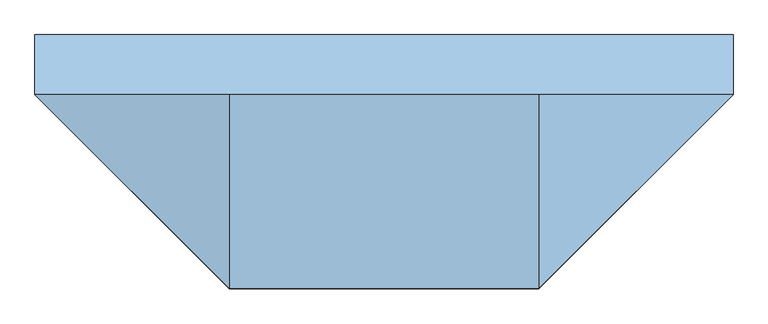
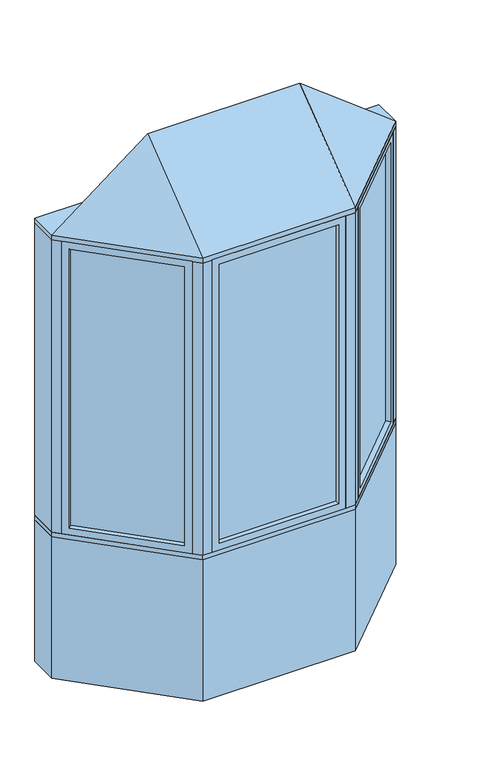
"""IFC4 building model written with IfcOpenShell, lengths in millimetres: window geometry, Pollard_Windows_Tudor Casement Bows and Bays : AML-BAY 45 AFR0516-08-600."""

from ifc_helpers import new_model, si_unit, frame, origin, origin_with_axes, place, context, project, spatial, polyline, outline, extrude, faceted_brep, source, transform, mapped, element, save


def window_911a515b(model_context):
    return source(origin(), model_context, "Body", "SolidModel", [
        extrude(outline(polyline([(824.0964271, -104.763169), (428.474814, -500.3847822), (424.8827115, -496.7926797), (820.5043247, -101.1710666), (824.0964271, -104.763169)])), frame((0.0, 0.0, 823.1628), z_axis=(0.0, 0.0, 1.0), x_axis=(1.0, 0.0, 0.0)), (0.0, 0.0, 1.0), 1553.6704),
        faceted_brep([(815.116171, -113.7434252, 835.8628), (833.0766833, -131.7039374, 835.8628), (833.0766833, -131.7039374, 2364.1332), (815.116171, -113.7434252, 2364.1332), (820.5043247, -101.1710666, 823.1628), (824.0964271, -104.763169, 823.1628), (824.0964271, -104.763169, 2376.8332), (820.5043247, -101.1710666, 2376.8332), (793.5635563, -92.1908105, 835.8628), (811.5240686, -110.1513227, 835.8628), (811.5240686, -110.1513227, 2364.1332), (793.5635563, -92.1908105, 2364.1332), (858.4369265, -106.3436941, 799.998), (818.9237996, -66.8305672, 799.998), (818.9237996, -66.8305672, 2399.998), (858.4369265, -106.3436941, 2399.998), (455.4155823, -509.3650383, 2364.1332), (437.4550701, -491.4045261, 2364.1332), (428.474814, -500.3847822, 2376.8332), (424.8827115, -496.7926797, 2376.8332), (433.8629677, -487.8124236, 2364.1332), (415.9024554, -469.8519114, 2364.1332), (390.5422121, -495.2121547, 2399.998), (430.0553391, -534.7252816, 2399.998), (455.4155823, -509.3650383, 835.8628), (437.4550701, -491.4045261, 835.8628), (428.474814, -500.3847822, 823.1628), (424.8827115, -496.7926797, 823.1628), (433.8629677, -487.8124236, 835.8628), (415.9024554, -469.8519114, 835.8628), (390.5422121, -495.2121547, 799.998), (430.0553391, -534.7252816, 799.998)], [[[0, 1, 2, 3]], [[4, 5, 6, 7]], [[8, 9, 10, 11]], [[12, 13, 14, 15]], [[3, 2, 16, 17]], [[7, 6, 18, 19]], [[11, 10, 20, 21]], [[15, 14, 22, 23]], [[17, 16, 24, 25]], [[19, 18, 26, 27]], [[21, 20, 28, 29]], [[23, 22, 30, 31]], [[25, 24, 1, 0]], [[5, 26, 18, 6], [3, 17, 25, 0]], [[27, 26, 5, 4]], [[7, 19, 27, 4], [9, 28, 20, 10]], [[29, 28, 9, 8]], [[13, 30, 22, 14], [11, 21, 29, 8]], [[31, 30, 13, 12]], [[15, 23, 31, 12], [1, 24, 16, 2]]]),
        extrude(outline(polyline([(-428.474814, -500.3847822), (-824.0964271, -104.763169), (-820.5043247, -101.1710666), (-424.8827115, -496.7926797), (-428.474814, -500.3847822)])), frame((0.0, 0.0, 823.1628), z_axis=(0.0, 0.0, 1.0), x_axis=(1.0, 0.0, 0.0)), (0.0, 0.0, 1.0), 1553.6704),
        faceted_brep([(-433.8629677, -487.8124236, 2364.1332), (-415.9024554, -469.8519114, 2364.1332), (-415.9024554, -469.8519114, 835.8628), (-433.8629677, -487.8124236, 835.8628), (-428.474814, -500.3847822, 2376.8332), (-424.8827115, -496.7926797, 2376.8332), (-424.8827115, -496.7926797, 823.1628), (-428.474814, -500.3847822, 823.1628), (-455.4155823, -509.3650383, 2364.1332), (-437.4550701, -491.4045261, 2364.1332), (-437.4550701, -491.4045261, 835.8628), (-455.4155823, -509.3650383, 835.8628), (-390.5422121, -495.2121547, 2399.998), (-430.0553391, -534.7252816, 2399.998), (-430.0553391, -534.7252816, 799.998), (-390.5422121, -495.2121547, 799.998), (-793.5635563, -92.1908105, 835.8628), (-811.5240686, -110.1513227, 835.8628), (-820.5043247, -101.1710666, 823.1628), (-824.0964271, -104.763169, 823.1628), (-815.116171, -113.7434252, 835.8628), (-833.0766833, -131.7039374, 835.8628), (-858.4369265, -106.3436941, 799.998), (-818.9237996, -66.8305672, 799.998), (-793.5635563, -92.1908105, 2364.1332), (-811.5240686, -110.1513227, 2364.1332), (-820.5043247, -101.1710666, 2376.8332), (-824.0964271, -104.763169, 2376.8332), (-815.116171, -113.7434252, 2364.1332), (-833.0766833, -131.7039374, 2364.1332), (-858.4369265, -106.3436941, 2399.998), (-818.9237996, -66.8305672, 2399.998)], [[[0, 1, 2, 3]], [[4, 5, 6, 7]], [[8, 9, 10, 11]], [[12, 13, 14, 15]], [[3, 2, 16, 17]], [[7, 6, 18, 19]], [[11, 10, 20, 21]], [[15, 14, 22, 23]], [[17, 16, 24, 25]], [[19, 18, 26, 27]], [[21, 20, 28, 29]], [[23, 22, 30, 31]], [[15, 23, 31, 12], [1, 24, 16, 2]], [[25, 24, 1, 0]], [[5, 26, 18, 6], [3, 17, 25, 0]], [[27, 26, 5, 4]], [[7, 19, 27, 4], [9, 28, 20, 10]], [[29, 28, 9, 8]], [[13, 30, 22, 14], [11, 21, 29, 8]], [[31, 30, 13, 12]]]),
        extrude(outline(polyline([(321.5352, -544.6806207), (-321.5352, -544.6806207), (-321.5352, -539.6006207), (321.5352, -539.6006207), (321.5352, -544.6806207)])), frame((0.0, 0.0, 823.1628), z_axis=(0.0, 0.0, 1.0), x_axis=(1.0, 0.0, 0.0)), (0.0, 0.0, 1.0), 1553.6704),
        faceted_brep([(308.8352, -544.6806207, 835.8628), (308.8352, -570.0806207, 835.8628), (308.8352, -570.0806207, 2364.1332), (308.8352, -544.6806207, 2364.1332), (321.5352, -539.6006207, 823.1628), (321.5352, -544.6806207, 823.1628), (321.5352, -544.6806207, 2376.8332), (321.5352, -539.6006207, 2376.8332), (308.8352, -514.2006207, 835.8628), (308.8352, -539.6006207, 835.8628), (308.8352, -539.6006207, 2364.1332), (308.8352, -514.2006207, 2364.1332), (344.7, -570.0806207, 799.998), (344.7, -514.2006207, 799.998), (344.7, -514.2006207, 2399.998), (344.7, -570.0806207, 2399.998), (-308.8352, -570.0806207, 2364.1332), (-308.8352, -544.6806207, 2364.1332), (-321.5352, -544.6806207, 2376.8332), (-321.5352, -539.6006207, 2376.8332), (-308.8352, -539.6006207, 2364.1332), (-308.8352, -514.2006207, 2364.1332), (-344.7, -514.2006207, 2399.998), (-344.7, -570.0806207, 2399.998), (-308.8352, -570.0806207, 835.8628), (-308.8352, -544.6806207, 835.8628), (-321.5352, -544.6806207, 823.1628), (-321.5352, -539.6006207, 823.1628), (-308.8352, -539.6006207, 835.8628), (-308.8352, -514.2006207, 835.8628), (-344.7, -514.2006207, 799.998), (-344.7, -570.0806207, 799.998)], [[[0, 1, 2, 3]], [[4, 5, 6, 7]], [[8, 9, 10, 11]], [[12, 13, 14, 15]], [[3, 2, 16, 17]], [[7, 6, 18, 19]], [[11, 10, 20, 21]], [[15, 14, 22, 23]], [[17, 16, 24, 25]], [[19, 18, 26, 27]], [[21, 20, 28, 29]], [[23, 22, 30, 31]], [[15, 23, 31, 12], [1, 24, 16, 2]], [[25, 24, 1, 0]], [[5, 26, 18, 6], [3, 17, 25, 0]], [[27, 26, 5, 4]], [[7, 19, 27, 4], [9, 28, 20, 10]], [[29, 28, 9, 8]], [[13, 30, 22, 14], [11, 21, 29, 8]], [[31, 30, 13, 12]]]),
        faceted_brep([(890.0, -74.7806207, 2425.398), (394.7, -570.0806207, 2425.398), (-394.7, -570.0806207, 2425.398), (-890.0, -74.7806207, 2425.398), (-394.7, -74.7806207, 2806.398), (394.7, -74.7806207, 2806.398)], [[[0, 1, 2, 3]], [[3, 2, 4]], [[2, 1, 5, 4]], [[1, 0, 5]], [[0, 3, 4, 5]]]),
        extrude(outline(polyline([(-890.0, 77.6193793), (890.0, 77.6193793), (890.0, -74.7806207), (394.7, -570.0806207), (-394.7, -570.0806207), (-890.0, -74.7806207), (-890.0, 77.6193793)])), frame((0.0, 0.0, 2399.998), z_axis=(0.0, 0.0, 1.0), x_axis=(1.0, 0.0, 0.0)), (0.0, 0.0, 1.0), 25.4),
        extrude(outline(polyline([(-890.0, -74.7806207), (-890.0, 77.6193793), (-826.8738531, 77.6193793), (-826.8738531, -74.7806207), (-858.4369265, -106.3436941), (-890.0, -74.7806207)])), frame((0.0, 0.0, 799.998), z_axis=(0.0, 0.0, 1.0), x_axis=(1.0, 0.0, 0.0)), (0.0, 0.0, 1.0), 1600.0),
        extrude(outline(polyline([(890.0, 77.6193793), (890.0, -74.7806207), (858.4369265, -106.3436941), (826.8738531, -74.7806207), (826.8738531, 77.6193793), (890.0, 77.6193793)])), frame((0.0, 0.0, 799.998), z_axis=(0.0, 0.0, 1.0), x_axis=(1.0, 0.0, 0.0)), (0.0, 0.0, 1.0), 1600.0),
        extrude(outline(polyline([(394.7, -570.0806207), (344.7, -570.0806207), (344.7, -520.0806207), (373.9893219, -520.0806207), (394.7, -499.3699425), (430.0553391, -534.7252816), (394.7, -570.0806207)])), frame((0.0, 0.0, 799.998), z_axis=(0.0, 0.0, 1.0), x_axis=(1.0, 0.0, 0.0)), (0.0, 0.0, 1.0), 1600.0),
        extrude(outline(polyline([(-394.7, -570.0806207), (-430.0553391, -534.7252816), (-394.7, -499.3699425), (-373.9893219, -520.0806207), (-344.7, -520.0806207), (-344.7, -570.0806207), (-394.7, -570.0806207)])), frame((0.0, 0.0, 799.998), z_axis=(0.0, 0.0, 1.0), x_axis=(1.0, 0.0, 0.0)), (0.0, 0.0, 1.0), 1600.0),
        extrude(outline(polyline([(-394.7, -570.0806207), (-890.0, -74.7806207), (-890.0, 77.6193793), (-826.8738531, 77.6193793), (-331.5738531, -417.6806207), (331.5738531, -417.6806207), (826.8738531, 77.6193793), (890.0, 77.6193793), (890.0, -74.7806207), (394.7, -570.0806207), (-394.7, -570.0806207)])), frame((0.0, 0.0, 774.598), z_axis=(0.0, 0.0, 1.0), x_axis=(1.0, 0.0, 0.0)), (0.0, 0.0, 1.0), 25.4),
        extrude(outline(polyline([(-890.0, -74.7806207), (-890.0, 77.6193793), (-826.8738531, 77.6193793), (-331.5738531, -417.6806207), (331.5738531, -417.6806207), (826.8738531, 77.6193793), (890.0, 77.6193793), (890.0, -74.7806207), (394.7, -570.0806207), (-394.7, -570.0806207), (-890.0, -74.7806207)])), origin_with_axes(), (0.0, 0.0, 1.0), 774.598),
    ])


if __name__ == "__main__":
    model = new_model("IFC4")
    model_context = context("Model", 3, world=origin())
    ifc_project = project(units=[si_unit("LENGTHUNIT", "METRE", prefix="MILLI")], contexts=[model_context])
    site = spatial("IfcSite", under=ifc_project)
    building = spatial("IfcBuilding", under=site)
    placement = place(None, origin())
    window_shape = window_911a515b(model_context)
    element("IfcWindow", 1, ObjectType="Pollard_Windows_Tudor Casement Bows and Bays : AML-BAY 45 AFR0516-08-600", at=placement, inside=building, context=model_context, shape_type="MappedRepresentation", body=[
        mapped(window_shape, transform((0.0, 0.0, 0.0), x_axis=(1.0, 0.0, 0.0), y_axis=(0.0, 1.0, 0.0), z_axis=(0.0, 0.0, 1.0))),
    ])
    save(model, "model.ifc")
